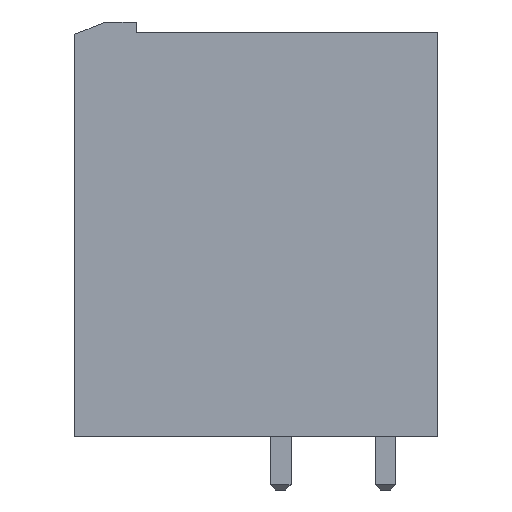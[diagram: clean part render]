
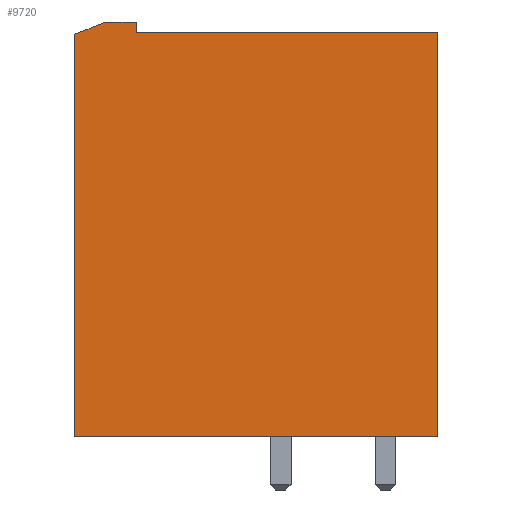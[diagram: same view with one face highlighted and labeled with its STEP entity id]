
A CAD part, left-side view. The second image highlights one B-rep face of the part: STEP entity #9720.
In plain terms, the highlighted planar face has unit normal (-1, 0, 0).
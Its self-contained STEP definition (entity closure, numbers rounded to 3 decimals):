
#5=DIRECTION('',(0.,0.,1.));
#6=VECTOR('',#5,19.6);
#7=CARTESIAN_POINT('',(32.367,10.63,-20.1));
#8=LINE('',#7,#6);
#1741=DIRECTION('',(0.,0.,-1.));
#1742=VECTOR('',#1741,19.5);
#1743=CARTESIAN_POINT('',(32.367,28.23,-0.6));
#1744=LINE('',#1743,#1742);
#2304=DIRECTION('',(0.,1.,0.));
#2305=VECTOR('',#2304,1.5);
#2306=CARTESIAN_POINT('',(32.367,25.23,0.));
#2307=LINE('',#2306,#2305);
#2332=DIRECTION('',(0.,0.,1.));
#2333=VECTOR('',#2332,0.5);
#2334=CARTESIAN_POINT('',(32.367,25.23,-0.5));
#2335=LINE('',#2334,#2333);
#2340=DIRECTION('',(0.,-0.928,0.371));
#2341=VECTOR('',#2340,1.616);
#2342=CARTESIAN_POINT('',(32.367,28.23,-0.6));
#2343=LINE('',#2342,#2341);
#2344=DIRECTION('',(0.,-1.,0.));
#2345=VECTOR('',#2344,14.6);
#2346=CARTESIAN_POINT('',(32.367,25.23,-0.5));
#2347=LINE('',#2346,#2345);
#2348=DIRECTION('',(0.,1.,0.));
#2349=VECTOR('',#2348,17.6);
#2350=CARTESIAN_POINT('',(32.367,10.63,-20.1));
#2351=LINE('',#2350,#2349);
#5133=CARTESIAN_POINT('',(32.367,10.63,-20.1));
#5134=VERTEX_POINT('',#5133);
#5135=CARTESIAN_POINT('',(32.367,10.63,-0.5));
#5136=VERTEX_POINT('',#5135);
#5632=CARTESIAN_POINT('',(32.367,28.23,-20.1));
#5633=VERTEX_POINT('',#5632);
#5758=CARTESIAN_POINT('',(32.367,28.23,-0.6));
#5759=VERTEX_POINT('',#5758);
#5866=CARTESIAN_POINT('',(32.367,25.23,0.));
#5867=VERTEX_POINT('',#5866);
#5868=CARTESIAN_POINT('',(32.367,26.73,0.));
#5869=VERTEX_POINT('',#5868);
#5878=CARTESIAN_POINT('',(32.367,25.23,-0.5));
#5879=VERTEX_POINT('',#5878);
#9705=CARTESIAN_POINT('',(32.367,28.23,0.));
#9706=DIRECTION('',(-1.,0.,0.));
#9707=DIRECTION('',(0.,-1.,0.));
#9708=AXIS2_PLACEMENT_3D('',#9705,#9706,#9707);
#9709=PLANE('',#9708);
#9710=ORIENTED_EDGE('',*,*,#9130,.F.);
#9712=ORIENTED_EDGE('',*,*,#9711,.T.);
#9713=ORIENTED_EDGE('',*,*,#9656,.F.);
#9714=ORIENTED_EDGE('',*,*,#9683,.F.);
#9715=ORIENTED_EDGE('',*,*,#9697,.T.);
#9716=ORIENTED_EDGE('',*,*,#6651,.F.);
#9717=ORIENTED_EDGE('',*,*,#7631,.T.);
#9718=EDGE_LOOP('',(#9710,#9712,#9713,#9714,#9715,#9716,#9717));
#9719=FACE_OUTER_BOUND('',#9718,.F.);
#9720=ADVANCED_FACE('',(#9719),#9709,.T.);
#6651=EDGE_CURVE('',#5134,#5136,#8,.T.);
#7631=EDGE_CURVE('',#5134,#5633,#2351,.T.);
#9130=EDGE_CURVE('',#5759,#5633,#1744,.T.);
#9656=EDGE_CURVE('',#5867,#5869,#2307,.T.);
#9683=EDGE_CURVE('',#5879,#5867,#2335,.T.);
#9697=EDGE_CURVE('',#5879,#5136,#2347,.T.);
#9711=EDGE_CURVE('',#5759,#5869,#2343,.T.);
